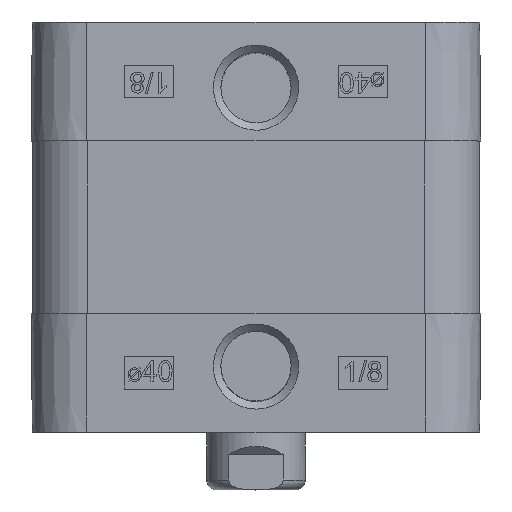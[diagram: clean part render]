
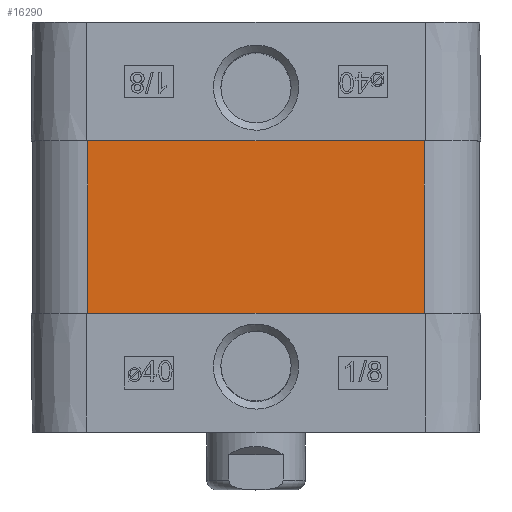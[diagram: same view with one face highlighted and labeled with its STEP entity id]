
A CAD part, top view. The second image highlights one B-rep face of the part: STEP entity #16290.
In plain terms, the highlighted planar face has unit normal (0, 0, 1) as drawn and (-1, 0, 0) by its records, which use the part's own axes.
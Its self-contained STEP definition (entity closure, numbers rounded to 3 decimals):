
#912=PLANE('',#17389);
#1792=LINE('',#25370,#2804);
#1836=LINE('',#25552,#2848);
#1880=LINE('',#25726,#2892);
#1881=LINE('',#25727,#2893);
#2804=VECTOR('',#20107,1000.);
#2848=VECTOR('',#20245,1000.);
#2892=VECTOR('',#20377,1000.);
#2893=VECTOR('',#20378,1000.);
#5980=ORIENTED_EDGE('',*,*,#7836,.T.);
#5981=ORIENTED_EDGE('',*,*,#7923,.F.);
#5982=ORIENTED_EDGE('',*,*,#7746,.F.);
#5983=ORIENTED_EDGE('',*,*,#7924,.T.);
#7746=EDGE_CURVE('',#8990,#8991,#1792,.T.);
#7836=EDGE_CURVE('',#9081,#9079,#1836,.T.);
#7923=EDGE_CURVE('',#8991,#9079,#1880,.T.);
#7924=EDGE_CURVE('',#8990,#9081,#1881,.T.);
#8990=VERTEX_POINT('',#25371);
#8991=VERTEX_POINT('',#25372);
#9079=VERTEX_POINT('',#25550);
#9081=VERTEX_POINT('',#25553);
#10398=EDGE_LOOP('',(#5980,#5981,#5982,#5983));
#11287=FACE_BOUND('',#10398,.T.);
#16290=ADVANCED_FACE('',(#11287),#912,.T.);
#17389=AXIS2_PLACEMENT_3D('',#25725,#20375,#20376);
#20107=DIRECTION('',(0.,1.,0.));
#20245=DIRECTION('',(0.,1.,0.));
#20375=DIRECTION('',(-1.,0.,0.));
#20376=DIRECTION('',(0.,0.,1.));
#20377=DIRECTION('',(0.,0.,1.));
#20378=DIRECTION('',(0.,0.,1.));
#25370=CARTESIAN_POINT('',(-27.25,-20.5,0.));
#25371=CARTESIAN_POINT('',(-27.25,-20.5,0.));
#25372=CARTESIAN_POINT('',(-27.25,20.5,0.));
#25550=CARTESIAN_POINT('',(-27.25,20.5,21.));
#25552=CARTESIAN_POINT('',(-27.25,-20.5,21.));
#25553=CARTESIAN_POINT('',(-27.25,-20.5,21.));
#25725=CARTESIAN_POINT('',(-27.25,-20.5,0.));
#25726=CARTESIAN_POINT('',(-27.25,20.5,0.));
#25727=CARTESIAN_POINT('',(-27.25,-20.5,0.));
